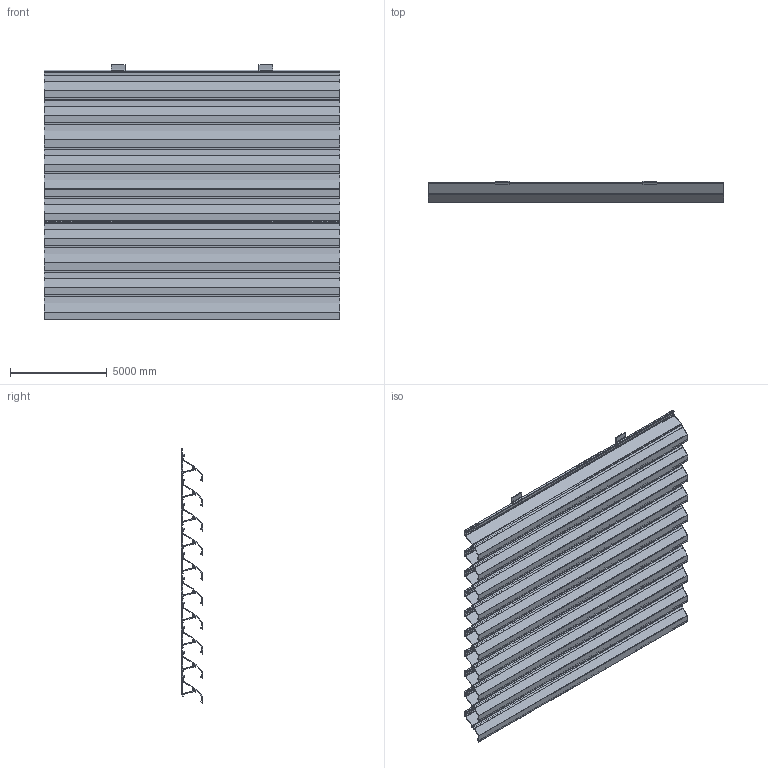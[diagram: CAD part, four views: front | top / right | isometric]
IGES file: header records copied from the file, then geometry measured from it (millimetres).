
Global section: file name: 3D_L_050-00; native system: AutoCAD 2023 - English; preprocessor: Autodesk Translation Framework DWG producer (atf_dwg_producer); organization: unknown; date: 20260202.112403; units: inch
Bounding box: 15240 x 1092.2 x 13155.24 mm (x, y, z)
Volume: 14481838173.4 mm3; surface area: 768457340.1 mm2
Topology: 30 solids, 30 shells, 1590 faces, 4590 edges, 3060 vertices
Faces by surface type: bspline 1590
